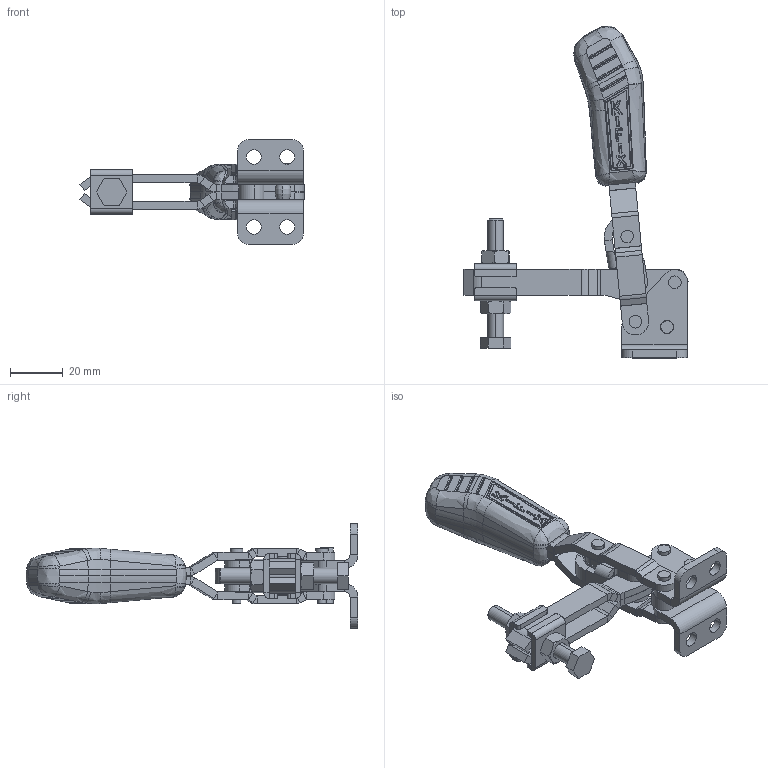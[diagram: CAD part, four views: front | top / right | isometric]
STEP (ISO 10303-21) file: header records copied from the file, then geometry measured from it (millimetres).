
FILE_DESCRIPTION (( 'STEP AP203' ), '1' );
FILE_NAME ('KF-012 DBL.STEP', '2018-03-14T16:41:58', ( 'Ricardo' ), ( '' ), 'SwSTEP 2.0', 'SolidWorks 2018', '' );
FILE_SCHEMA (( 'CONFIG_CONTROL_DESIGN' ));
Length unit declared in the file: millimetre
Products named in the file (15): 05.20007; 02.12011_Direita; 04.20004; 02.12011_Esquerda; 11.50001; 01.10120; 07.60005; 12.50002; 03.14017_Direita; 14.10004; KF-012 DBL; 03.14017_Esquerda; 04.10004; 06.50011; 06.50012
Assembly tree (20 placements, depth 2):
  KF-012 DBL
    02.12011_Direita
    02.12011_Esquerda
    01.10120  x2
    03.14017_Direita
    03.14017_Esquerda
    04.10004
    06.50011  x2
    06.50012  x2
    05.20007  x2
    04.20004
    11.50001  x2
    12.50002
    07.60005
    14.10004  x2
Bounding box: 84.99 x 125.92 x 39.6 mm (x, y, z)
Volume: 40316.2 mm3; surface area: 28979 mm2
Topology: 20 solids, 20 shells, 1111 faces, 2703 edges, 1651 vertices
Faces by surface type: plane 383, cylinder 357, bspline 273, sphere 50, cone 44, torus 4
Entity records: 37242 total; most frequent: CARTESIAN_POINT 14982, ORIENTED_EDGE 4798, DIRECTION 3562, EDGE_CURVE 2399, VERTEX_POINT 1479, AXIS2_PLACEMENT_3D 1320, EDGE_LOOP 1038, ADVANCED_FACE 969
